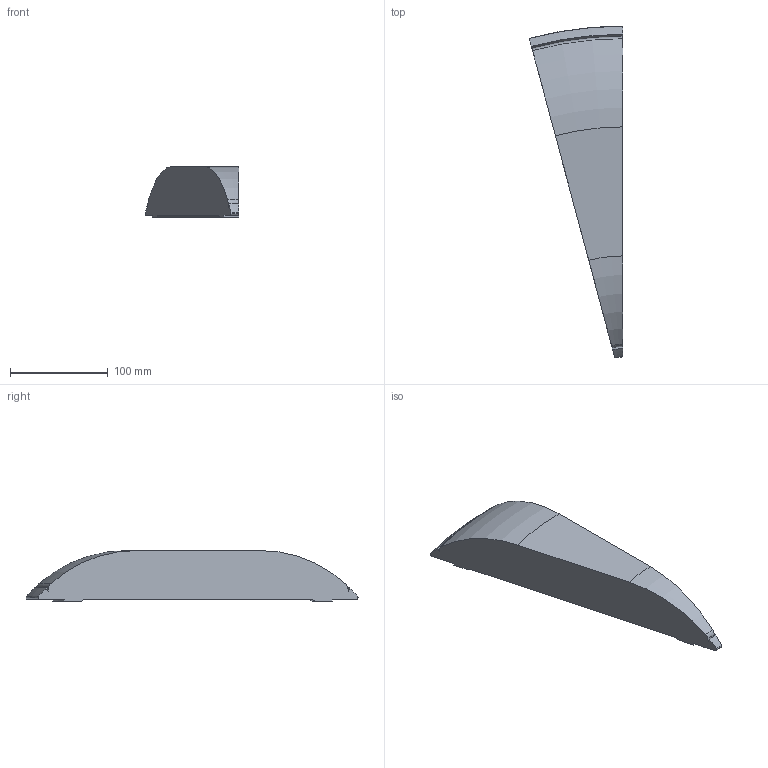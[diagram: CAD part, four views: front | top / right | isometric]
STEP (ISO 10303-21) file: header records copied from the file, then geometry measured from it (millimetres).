
FILE_DESCRIPTION(/* description */ ('Unknown'),/* implementation_level */ '2;1');
FILE_NAME(/* name */ '3D_Footsie_Corner15deg',/* time_stamp */ '2024-01-11T11:40:54+01:00',/* author */ ('Unknown'),/* organization */ ('Unknown'),/* preprocessor_version */ 'ST-DEVELOPER v18.104',/* originating_system */ 'Solid Edge',/* authorisation */ 'Unknown');
FILE_SCHEMA (('AUTOMOTIVE_DESIGN {1 0 10303 214 3 1 1}'));
Length unit declared in the file: millimetre
Products named in the file (1): 3D_Footsie_Corner15deg
Bounding box: 95.58 x 339.61 x 52 mm (x, y, z)
Volume: 733043.1 mm3; surface area: 65976.9 mm2
Topology: 1 solids, 1 shells, 26 faces, 72 edges, 48 vertices
Faces by surface type: torus 12, plane 8, cone 4, cylinder 2
Entity records: 894 total; most frequent: DIRECTION 174, CARTESIAN_POINT 147, ORIENTED_EDGE 144, AXIS2_PLACEMENT_3D 75, EDGE_CURVE 72, VERTEX_POINT 48, CIRCLE 48, EDGE_LOOP 26
